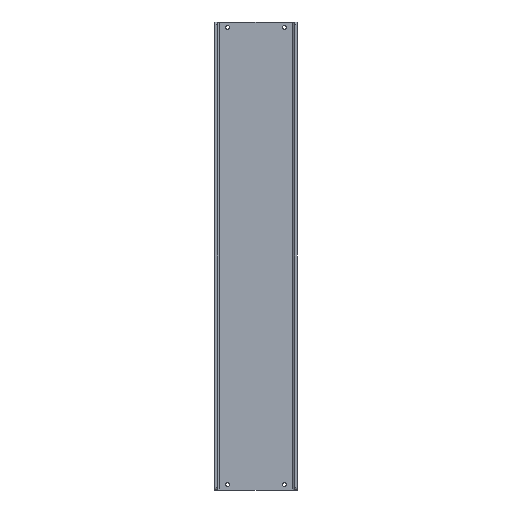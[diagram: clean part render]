
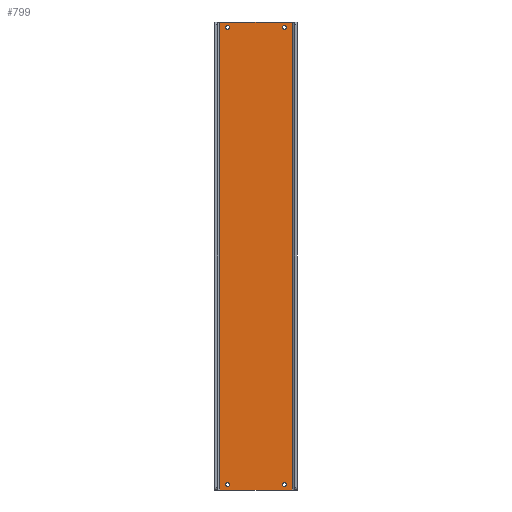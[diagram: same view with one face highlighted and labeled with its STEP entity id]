
A CAD part, front view. The second image highlights one B-rep face of the part: STEP entity #799.
In plain terms, the highlighted planar face has unit normal (0, -1, 0).
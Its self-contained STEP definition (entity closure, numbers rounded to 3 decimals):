
#30=FACE_BOUND('',#178,.T.);
#31=FACE_BOUND('',#179,.T.);
#32=FACE_BOUND('',#180,.T.);
#33=FACE_BOUND('',#181,.T.);
#51=PLANE('',#905);
#115=FACE_OUTER_BOUND('',#177,.T.);
#177=EDGE_LOOP('',(#720,#721,#722,#723));
#178=EDGE_LOOP('',(#724));
#179=EDGE_LOOP('',(#725));
#180=EDGE_LOOP('',(#726));
#181=EDGE_LOOP('',(#727));
#230=LINE('',#1335,#290);
#237=LINE('',#1357,#297);
#239=LINE('',#1361,#299);
#241=LINE('',#1365,#301);
#290=VECTOR('',#1110,10.);
#297=VECTOR('',#1137,10.);
#299=VECTOR('',#1143,10.);
#301=VECTOR('',#1149,10.);
#304=CIRCLE('',#818,2.248);
#313=CIRCLE('',#833,2.248);
#316=CIRCLE('',#838,2.248);
#331=CIRCLE('',#863,2.248);
#350=VERTEX_POINT('',#1160);
#359=VERTEX_POINT('',#1190);
#362=VERTEX_POINT('',#1200);
#377=VERTEX_POINT('',#1250);
#403=VERTEX_POINT('',#1325);
#404=VERTEX_POINT('',#1329);
#408=VERTEX_POINT('',#1349);
#409=VERTEX_POINT('',#1353);
#414=EDGE_CURVE('',#350,#350,#304,.T.);
#429=EDGE_CURVE('',#359,#359,#313,.T.);
#434=EDGE_CURVE('',#362,#362,#316,.T.);
#459=EDGE_CURVE('',#377,#377,#331,.T.);
#500=EDGE_CURVE('',#403,#404,#230,.T.);
#511=EDGE_CURVE('',#408,#409,#237,.T.);
#513=EDGE_CURVE('',#404,#408,#239,.T.);
#515=EDGE_CURVE('',#409,#403,#241,.T.);
#720=ORIENTED_EDGE('',*,*,#500,.T.);
#721=ORIENTED_EDGE('',*,*,#513,.T.);
#722=ORIENTED_EDGE('',*,*,#511,.T.);
#723=ORIENTED_EDGE('',*,*,#515,.T.);
#724=ORIENTED_EDGE('',*,*,#414,.T.);
#725=ORIENTED_EDGE('',*,*,#429,.T.);
#726=ORIENTED_EDGE('',*,*,#434,.T.);
#727=ORIENTED_EDGE('',*,*,#459,.T.);
#799=ADVANCED_FACE('',(#115,#30,#31,#32,#33),#51,.T.);
#818=AXIS2_PLACEMENT_3D('',#1162,#918,#919);
#833=AXIS2_PLACEMENT_3D('',#1192,#954,#955);
#838=AXIS2_PLACEMENT_3D('',#1202,#966,#967);
#863=AXIS2_PLACEMENT_3D('',#1252,#1026,#1027);
#905=AXIS2_PLACEMENT_3D('',#1366,#1150,#1151);
#918=DIRECTION('center_axis',(0.,1.,0.));
#919=DIRECTION('ref_axis',(0.,0.,1.));
#954=DIRECTION('center_axis',(0.,1.,0.));
#955=DIRECTION('ref_axis',(0.,0.,1.));
#966=DIRECTION('center_axis',(0.,1.,0.));
#967=DIRECTION('ref_axis',(0.,0.,1.));
#1026=DIRECTION('center_axis',(0.,1.,0.));
#1027=DIRECTION('ref_axis',(0.,0.,1.));
#1110=DIRECTION('',(0.,0.,-1.));
#1137=DIRECTION('',(0.,0.,1.));
#1143=DIRECTION('',(1.,0.,0.));
#1149=DIRECTION('',(-1.,0.,0.));
#1150=DIRECTION('center_axis',(0.,-1.,0.));
#1151=DIRECTION('ref_axis',(0.,0.,-1.));
#1160=CARTESIAN_POINT('',(42.,-3.,34.402));
#1162=CARTESIAN_POINT('Origin',(42.,-3.,36.65));
#1190=CARTESIAN_POINT('',(42.,-3.,-503.898));
#1192=CARTESIAN_POINT('Origin',(42.,-3.,-501.65));
#1200=CARTESIAN_POINT('',(-25.,-3.,-503.898));
#1202=CARTESIAN_POINT('Origin',(-25.,-3.,-501.65));
#1250=CARTESIAN_POINT('',(-25.,-3.,34.402));
#1252=CARTESIAN_POINT('Origin',(-25.,-3.,36.65));
#1325=CARTESIAN_POINT('',(-34.,-3.,43.));
#1329=CARTESIAN_POINT('',(-34.,-3.,-508.));
#1335=CARTESIAN_POINT('',(-34.,-3.,-94.75));
#1349=CARTESIAN_POINT('',(51.,-3.,-508.));
#1353=CARTESIAN_POINT('',(51.,-3.,43.));
#1357=CARTESIAN_POINT('',(51.,-3.,-370.25));
#1361=CARTESIAN_POINT('',(-40.,-3.,-508.));
#1365=CARTESIAN_POINT('',(57.,-3.,43.));
#1366=CARTESIAN_POINT('Origin',(8.5,-3.,-232.5));
